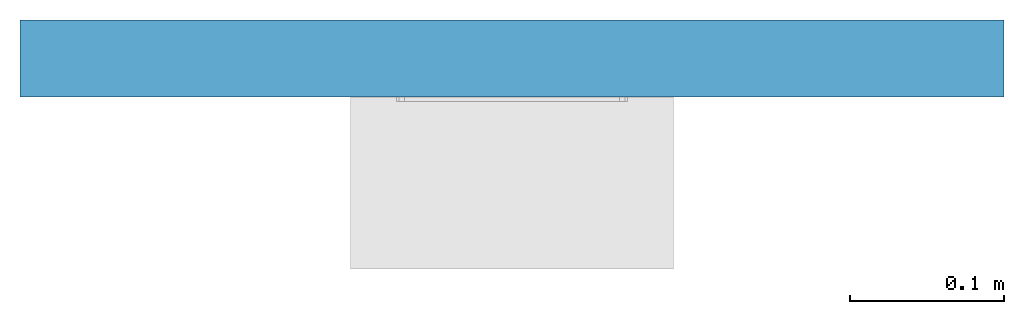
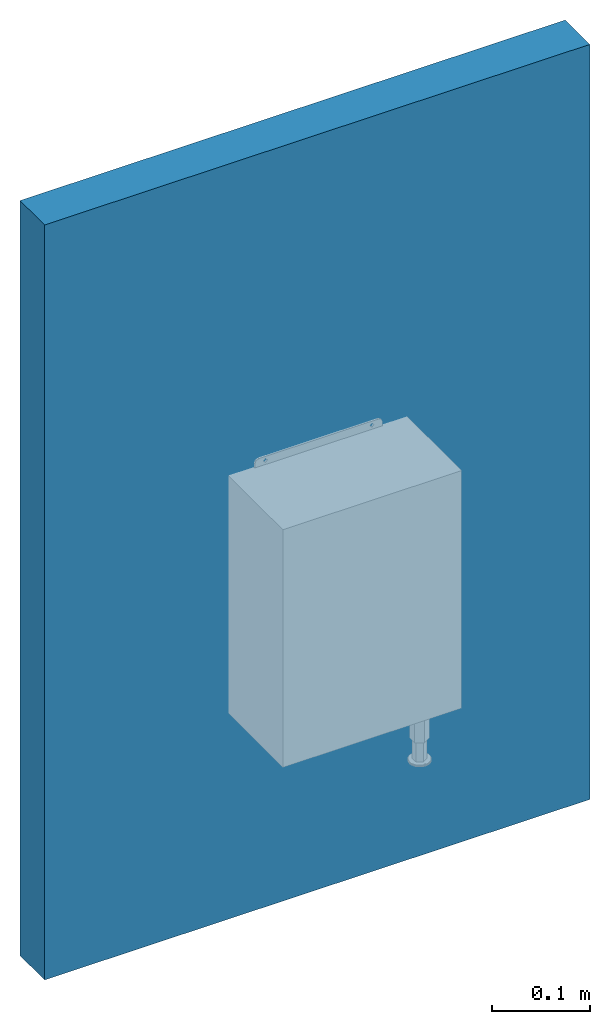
# One storey, part 1 of 2: 1 wall.
"""IFC2X3 building model written with IfcOpenShell, lengths in millimetres."""

from ifc_helpers import new_model, entity, si_unit, converted_unit, derived_unit, direction, frame, frame_2d, origin, place, context, subcontext, project, spatial, rectangle, extrude, material, layer, layer_set, layer_usage, type_object, element, save


model = new_model("IFC2X3")

# Units and contexts
model_context = context("Model", 3, precision=1e-05, world=origin(), true_north=direction((2.0, 6.12303176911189e-17, 1.0)))
context_of_model = context(None, 3, precision=1e-05, world=origin(), true_north=direction((2.0, 6.12303176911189e-17, 1.0)))
body_context = subcontext(model_context, "Body", "Model", "MODEL_VIEW")
ifc_project = project(units=[si_unit("LENGTHUNIT", "METRE", prefix="MILLI"), si_unit("AREAUNIT", "SQUARE_METRE"), si_unit("VOLUMEUNIT", "CUBIC_METRE"), converted_unit("PLANEANGLEUNIT", "DEGREE", entity("IfcRatioMeasure", 0.0174532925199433), si_unit("PLANEANGLEUNIT", "RADIAN"), dimensions=[0, 0, 0, 0, 0, 0, 0]), si_unit("MASSUNIT", "GRAM", prefix="KILO"), si_unit("TIMEUNIT", "SECOND"), si_unit("THERMODYNAMICTEMPERATUREUNIT", "KELVIN"), derived_unit("THERMALTRANSMITTANCEUNIT", [(si_unit("MASSUNIT", "GRAM", prefix="KILO"), 1), (si_unit("THERMODYNAMICTEMPERATUREUNIT", "KELVIN"), -1), (si_unit("TIMEUNIT", "SECOND"), -3)]), derived_unit("VOLUMETRICFLOWRATEUNIT", [(si_unit("LENGTHUNIT", "METRE"), 3), (si_unit("TIMEUNIT", "SECOND"), -1)]), si_unit("POWERUNIT", "WATT")], contexts=[model_context, context_of_model])

# Site, building, storey
site_placement = place(None, origin())
site = spatial("IfcSite", under=ifc_project, at=site_placement, Name="Default", CompositionType="ELEMENT")
building_placement = place(site_placement, origin())
building = spatial("IfcBuilding", under=site, at=building_placement, CompositionType="ELEMENT")
storey_placement = place(building_placement, origin())
storey = spatial("IfcBuildingStorey", under=building, at=storey_placement, Name="Level 1", CompositionType="ELEMENT", Elevation=0.0)

# Wall
ifc_material = material(Name="Default Wall")
ifc_layer = layer(ifc_material, 50.0)
ifc_layer_set = layer_set([ifc_layer], Name="Basic Wall:Wall 1")
ifc_layer_usage = layer_usage(ifc_layer_set, "AXIS2", "NEGATIVE", 25.0)
wall_type = type_object("IfcWallType", Name="Basic Wall:Wall 1", PredefinedType="STANDARD", material=ifc_layer_set)
wall_placement = place(storey_placement, frame((-320.747736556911, 3977.69853342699, 0.0)))
element("IfcWallStandardCase", 1, at=wall_placement, inside=storey, type_object=wall_type, material=ifc_layer_usage, Name="Basic Wall:Wall 1:3092", ObjectType="Basic Wall:Wall 1:1494", context=body_context, shape_type="SweptSolid", body=[
    extrude(rectangle(XDim=640.0, YDim=49.9999999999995, at=frame_2d((320.0, 0.0), x_axis=(-1.0, 0.0))), origin(), (0.0, 0.0, 1.0), 936.966674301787),
])

save(model, "model.ifc")
